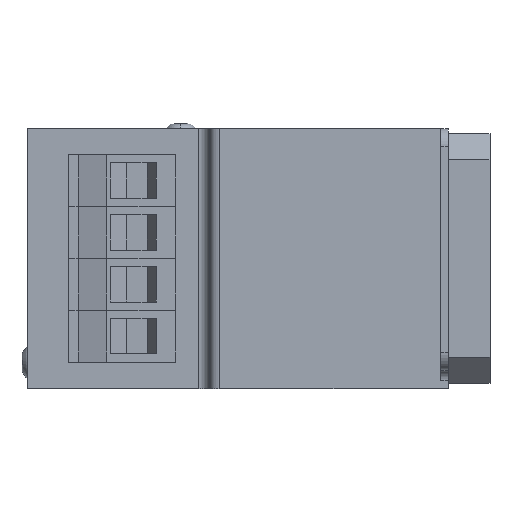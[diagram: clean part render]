
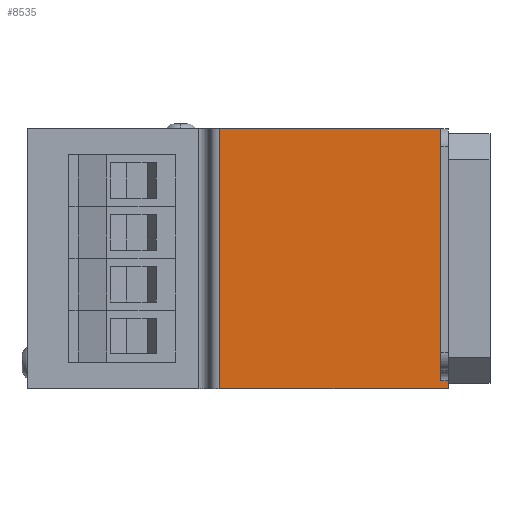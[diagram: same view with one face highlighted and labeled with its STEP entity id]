
A CAD part, left-side view. The second image highlights one B-rep face of the part: STEP entity #8535.
In plain terms, the highlighted planar face has unit normal (-1, 0, 0).
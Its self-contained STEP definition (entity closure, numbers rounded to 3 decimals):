
#551 = DIRECTION ( 'NONE',  ( 0., 0., -1. ) ) ;
#619 = CARTESIAN_POINT ( 'NONE',  ( -65.5, 0., -25. ) ) ;
#930 = VERTEX_POINT ( 'NONE', #619 ) ;
#1014 = EDGE_CURVE ( 'NONE', #9320, #1507, #2706, .T. ) ;
#1029 = LINE ( 'NONE', #1873, #9203 ) ;
#1237 = ORIENTED_EDGE ( 'NONE', *, *, #5696, .T. ) ;
#1288 = VERTEX_POINT ( 'NONE', #5446 ) ;
#1486 = DIRECTION ( 'NONE',  ( 1., 0., 0. ) ) ;
#1507 = VERTEX_POINT ( 'NONE', #8465 ) ;
#1531 = EDGE_CURVE ( 'NONE', #7492, #7455, #3389, .T. ) ;
#1662 = DIRECTION ( 'NONE',  ( 0., 1., 0. ) ) ;
#1873 = CARTESIAN_POINT ( 'NONE',  ( -65.5, 0., -25. ) ) ;
#1919 = CARTESIAN_POINT ( 'NONE',  ( -65.5, 44., -25. ) ) ;
#2340 = VECTOR ( 'NONE', #1662, 1000. ) ;
#2703 = ORIENTED_EDGE ( 'NONE', *, *, #7035, .T. ) ;
#2706 = LINE ( 'NONE', #9214, #9144 ) ;
#2784 = VECTOR ( 'NONE', #9301, 1000. ) ;
#3102 = FACE_OUTER_BOUND ( 'NONE', #8531, .T. ) ;
#3389 = LINE ( 'NONE', #1919, #4959 ) ;
#3563 = LINE ( 'NONE', #7203, #2784 ) ;
#3847 = CARTESIAN_POINT ( 'NONE',  ( -65.5, 1.5, -25. ) ) ;
#3854 = EDGE_CURVE ( 'NONE', #930, #7455, #6581, .T. ) ;
#4320 = LINE ( 'NONE', #4370, #6880 ) ;
#4370 = CARTESIAN_POINT ( 'NONE',  ( -65.5, 1.5, -25. ) ) ;
#4451 = EDGE_CURVE ( 'NONE', #9320, #930, #1029, .T. ) ;
#4612 = AXIS2_PLACEMENT_3D ( 'NONE', #6731, #1486, #8079 ) ;
#4839 = CARTESIAN_POINT ( 'NONE',  ( -65.5, 0., -23.5 ) ) ;
#4959 = VECTOR ( 'NONE', #6935, 1000. ) ;
#4997 = DIRECTION ( 'NONE',  ( 0., 1., 0. ) ) ;
#5420 = ORIENTED_EDGE ( 'NONE', *, *, #3854, .F. ) ;
#5446 = CARTESIAN_POINT ( 'NONE',  ( -65.5, 1.5, 25. ) ) ;
#5696 = EDGE_CURVE ( 'NONE', #1288, #7492, #3563, .T. ) ;
#5743 = CARTESIAN_POINT ( 'NONE',  ( -65.5, 44., 25. ) ) ;
#6206 = ORIENTED_EDGE ( 'NONE', *, *, #1014, .T. ) ;
#6581 = LINE ( 'NONE', #3847, #2340 ) ;
#6731 = CARTESIAN_POINT ( 'NONE',  ( -65.5, 1.5, -25. ) ) ;
#6880 = VECTOR ( 'NONE', #9253, 1000. ) ;
#6935 = DIRECTION ( 'NONE',  ( 0., 0., -1. ) ) ;
#7035 = EDGE_CURVE ( 'NONE', #1507, #1288, #4320, .T. ) ;
#7203 = CARTESIAN_POINT ( 'NONE',  ( -65.5, 1.5, 25. ) ) ;
#7273 = ORIENTED_EDGE ( 'NONE', *, *, #4451, .F. ) ;
#7455 = VERTEX_POINT ( 'NONE', #8522 ) ;
#7492 = VERTEX_POINT ( 'NONE', #5743 ) ;
#8079 = DIRECTION ( 'NONE',  ( 0., 0., -1. ) ) ;
#8465 = CARTESIAN_POINT ( 'NONE',  ( -65.5, 1.5, -23.5 ) ) ;
#8522 = CARTESIAN_POINT ( 'NONE',  ( -65.5, 44., -25. ) ) ;
#8531 = EDGE_LOOP ( 'NONE', ( #1237, #8851, #5420, #7273, #6206, #2703 ) ) ;
#8535 = ADVANCED_FACE ( 'NONE', ( #3102 ), #8753, .F. ) ;
#8753 = PLANE ( 'NONE',  #4612 ) ;
#8851 = ORIENTED_EDGE ( 'NONE', *, *, #1531, .T. ) ;
#9144 = VECTOR ( 'NONE', #4997, 1000. ) ;
#9203 = VECTOR ( 'NONE', #551, 1000. ) ;
#9214 = CARTESIAN_POINT ( 'NONE',  ( -65.5, 1.5, -23.5 ) ) ;
#9253 = DIRECTION ( 'NONE',  ( 0., 0., 1. ) ) ;
#9301 = DIRECTION ( 'NONE',  ( 0., 1., 0. ) ) ;
#9320 = VERTEX_POINT ( 'NONE', #4839 ) ;
